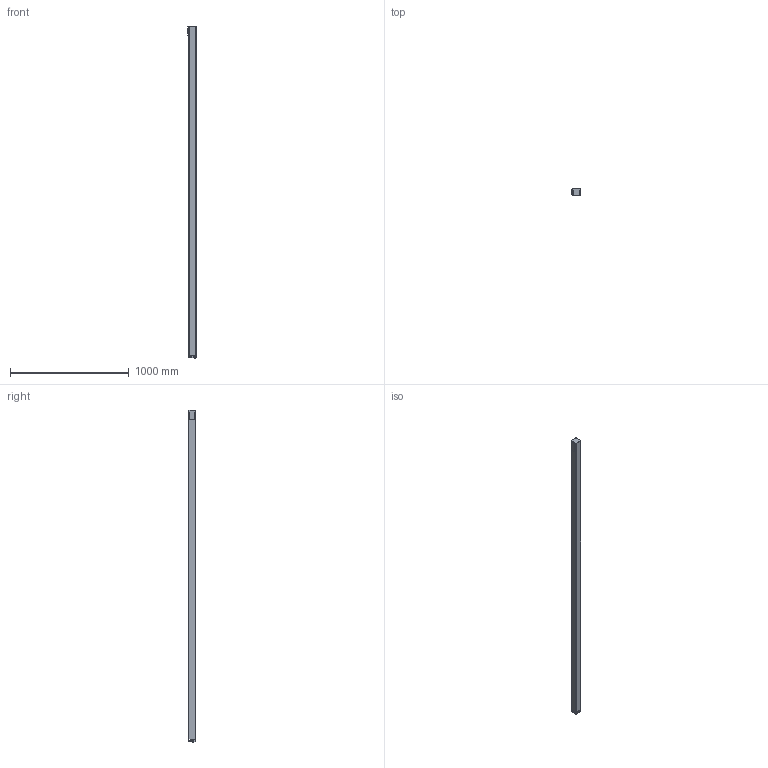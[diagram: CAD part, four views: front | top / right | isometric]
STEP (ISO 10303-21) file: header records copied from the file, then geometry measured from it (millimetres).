
FILE_DESCRIPTION (( 'STEP AP214' ), '1' );
FILE_NAME ('1001644.STEP', '2025-09-16T11:20:06', ( '' ), ( '' ), 'SwSTEP 2.0', 'SolidWorks 2025', '' );
FILE_SCHEMA (( 'AUTOMOTIVE_DESIGN' ));
Length unit declared in the file: millimetre
Products named in the file (1): 1001644
Bounding box: 71.2 x 61.2 x 2800 mm (x, y, z)
Volume: 10037439 mm3; surface area: 691683.2 mm2
Topology: 13 solids, 13 shells, 777 faces, 2051 edges, 1348 vertices
Faces by surface type: plane 583, cylinder 98, bspline 50, cone 26, sphere 16, torus 4
Entity records: 27214 total; most frequent: CARTESIAN_POINT 7999, ORIENTED_EDGE 4102, DIRECTION 3633, EDGE_CURVE 2051, LINE 1701, VECTOR 1701, VERTEX_POINT 1348, AXIS2_PLACEMENT_3D 966
